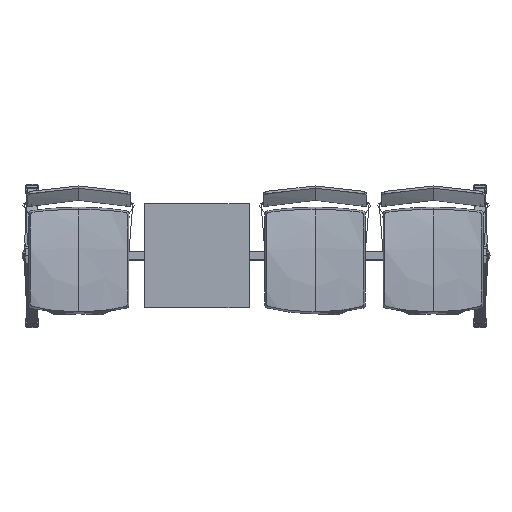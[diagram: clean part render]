
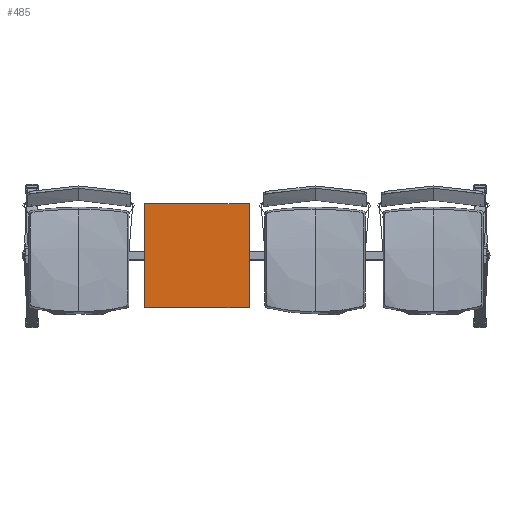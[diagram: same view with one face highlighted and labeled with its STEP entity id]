
A CAD part, top view. The second image highlights one B-rep face of the part: STEP entity #485.
In plain terms, the highlighted planar face has unit normal (0, 0, 1).
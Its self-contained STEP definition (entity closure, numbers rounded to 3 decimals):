
#485=ADVANCED_FACE('',(#1047),#7157,.T.);
#1047=FACE_OUTER_BOUND('',#1609,.T.);
#1609=EDGE_LOOP('',(#3256,#3257,#3258,#3259));
#3256=ORIENTED_EDGE('',*,*,#5065,.T.);
#3257=ORIENTED_EDGE('',*,*,#5067,.T.);
#3258=ORIENTED_EDGE('',*,*,#5069,.T.);
#3259=ORIENTED_EDGE('',*,*,#5071,.T.);
#5065=EDGE_CURVE('',#6359,#6360,#8041,.T.);
#5067=EDGE_CURVE('',#6360,#6361,#8043,.T.);
#5069=EDGE_CURVE('',#6361,#6362,#8045,.T.);
#5071=EDGE_CURVE('',#6362,#6359,#8047,.T.);
#6359=VERTEX_POINT('',#12745);
#6360=VERTEX_POINT('',#12746);
#6361=VERTEX_POINT('',#12747);
#6362=VERTEX_POINT('',#12748);
#7157=PLANE('',#8612);
#8041=B_SPLINE_CURVE_WITH_KNOTS('',1,(#12759,#12760),.UNSPECIFIED.,.F.,
 .F.,(2,2),(0.,450.),.UNSPECIFIED.);
#8043=B_SPLINE_CURVE_WITH_KNOTS('',1,(#12763,#12764),.UNSPECIFIED.,.F.,
 .F.,(2,2),(450.,900.),.UNSPECIFIED.);
#8045=B_SPLINE_CURVE_WITH_KNOTS('',1,(#12767,#12768),.UNSPECIFIED.,.F.,
 .F.,(2,2),(900.,1350.),.UNSPECIFIED.);
#8047=B_SPLINE_CURVE_WITH_KNOTS('',1,(#12771,#12772),.UNSPECIFIED.,.F.,
 .F.,(2,2),(1350.,1800.),.UNSPECIFIED.);
#8612=AXIS2_PLACEMENT_3D('',#12740,#8892,$);
#8892=DIRECTION('',(0.,0.,1.));
#12740=CARTESIAN_POINT('',(-480.,-225.,408.));
#12745=CARTESIAN_POINT('',(-480.,-225.,408.));
#12746=CARTESIAN_POINT('',(-30.,-225.,408.));
#12747=CARTESIAN_POINT('',(-30.,225.,408.));
#12748=CARTESIAN_POINT('',(-480.,225.,408.));
#12759=CARTESIAN_POINT('',(-480.,-225.,408.));
#12760=CARTESIAN_POINT('',(-30.,-225.,408.));
#12763=CARTESIAN_POINT('',(-30.,-225.,408.));
#12764=CARTESIAN_POINT('',(-30.,225.,408.));
#12767=CARTESIAN_POINT('',(-30.,225.,408.));
#12768=CARTESIAN_POINT('',(-480.,225.,408.));
#12771=CARTESIAN_POINT('',(-480.,225.,408.));
#12772=CARTESIAN_POINT('',(-480.,-225.,408.));
